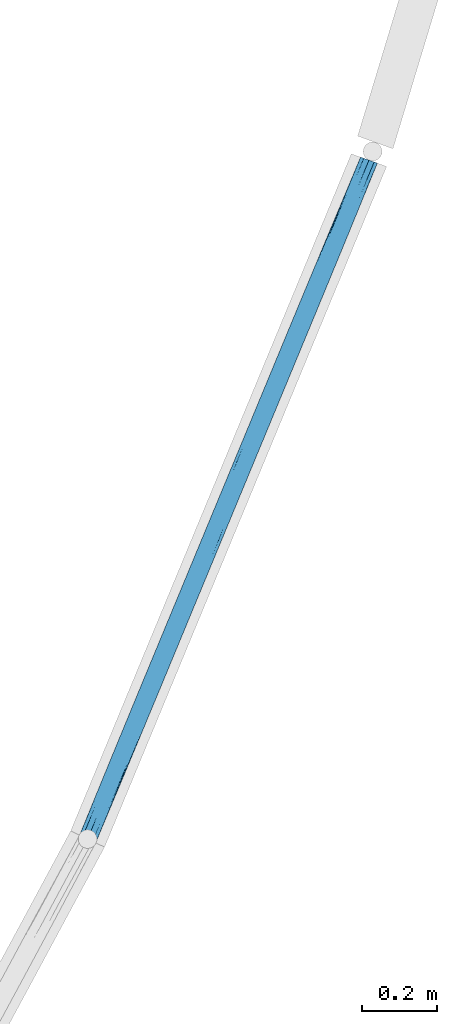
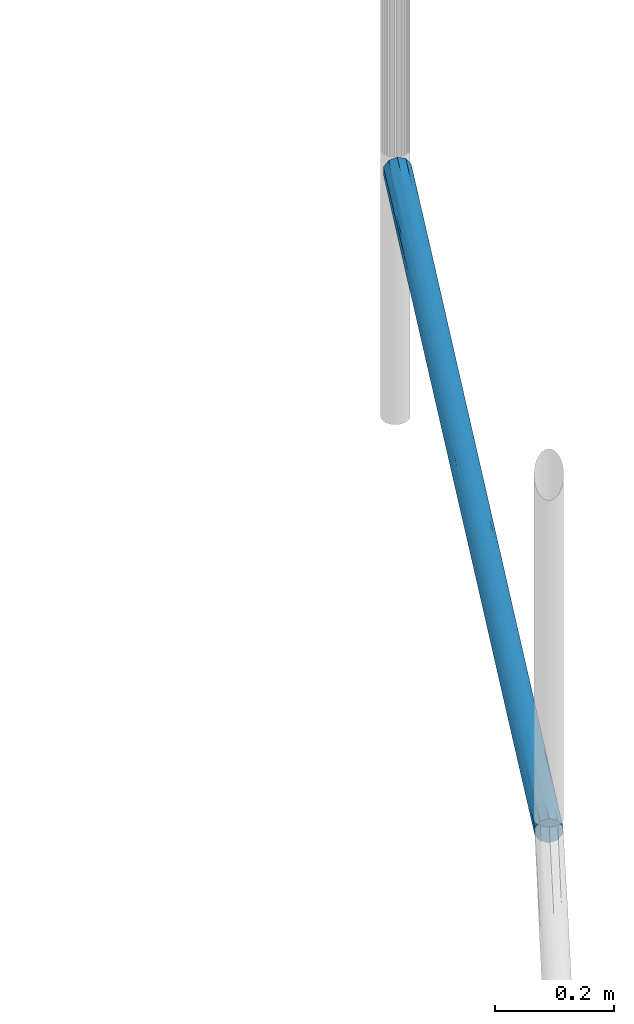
# One storey, part 29 of 33: 1 member, 1 element without a shape of its own.
"""IFC2X3 building model written with IfcOpenShell, lengths in metres."""

from ifc_helpers import new_model, entity, si_unit, converted_unit, derived_unit, direction, frame, origin, place, context, subcontext, project, spatial, faceted_brep, source, transform, mapped, material, type_object, type_shapes, element, aggregate, save


model = new_model("IFC2X3")

# Units and contexts
model_context = context("Model", 3, precision=1e-05, world=origin(), true_north=direction((6.123031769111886e-17, 1.0)))
body_context = subcontext(model_context, "Body", "Model", "MODEL_VIEW")
ifc_project = project(units=[si_unit("LENGTHUNIT", "METRE"), si_unit("AREAUNIT", "SQUARE_METRE"), si_unit("VOLUMEUNIT", "CUBIC_METRE"), converted_unit("PLANEANGLEUNIT", "DEGREE", entity("IfcRatioMeasure", 0.017453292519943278), si_unit("PLANEANGLEUNIT", "RADIAN"), dimensions=[0, 0, 0, 0, 0, 0, 0]), si_unit("MASSUNIT", "GRAM", prefix="KILO"), derived_unit("MASSDENSITYUNIT", [(si_unit("MASSUNIT", "GRAM", prefix="KILO"), 1), (si_unit("LENGTHUNIT", "METRE"), -3)]), derived_unit("IONCONCENTRATIONUNIT", [(si_unit("MASSUNIT", "GRAM", prefix="KILO"), 1), (si_unit("LENGTHUNIT", "METRE"), -3)]), derived_unit("MOMENTOFINERTIAUNIT", [(si_unit("LENGTHUNIT", "METRE"), 4)]), si_unit("TIMEUNIT", "SECOND"), si_unit("FREQUENCYUNIT", "HERTZ"), si_unit("THERMODYNAMICTEMPERATUREUNIT", "DEGREE_CELSIUS"), derived_unit("THERMALTRANSMITTANCEUNIT", [(si_unit("MASSUNIT", "GRAM", prefix="KILO"), 1), (si_unit("THERMODYNAMICTEMPERATUREUNIT", "KELVIN"), -1), (si_unit("TIMEUNIT", "SECOND"), -3)]), derived_unit("THERMALCONDUCTANCEUNIT", [(si_unit("MASSUNIT", "GRAM", prefix="KILO"), 1), (si_unit("THERMODYNAMICTEMPERATUREUNIT", "KELVIN"), -1), (si_unit("TIMEUNIT", "SECOND"), -3), (si_unit("LENGTHUNIT", "METRE"), 1)]), derived_unit("VOLUMETRICFLOWRATEUNIT", [(si_unit("LENGTHUNIT", "METRE"), 3), (si_unit("TIMEUNIT", "SECOND"), -1)]), derived_unit("MASSFLOWRATEUNIT", [(si_unit("MASSUNIT", "GRAM", prefix="KILO"), 1), (si_unit("TIMEUNIT", "SECOND"), -1)]), derived_unit("ROTATIONALFREQUENCYUNIT", [(si_unit("TIMEUNIT", "SECOND"), -1)]), si_unit("ELECTRICCURRENTUNIT", "AMPERE"), si_unit("ELECTRICVOLTAGEUNIT", "VOLT"), si_unit("POWERUNIT", "WATT"), si_unit("FORCEUNIT", "NEWTON", prefix="KILO"), si_unit("ILLUMINANCEUNIT", "LUX"), si_unit("LUMINOUSFLUXUNIT", "LUMEN"), si_unit("LUMINOUSINTENSITYUNIT", "CANDELA"), derived_unit("USERDEFINED", [(si_unit("MASSUNIT", "GRAM", prefix="KILO"), -1), (si_unit("LENGTHUNIT", "METRE"), -2), (si_unit("TIMEUNIT", "SECOND"), 3), (si_unit("LUMINOUSFLUXUNIT", "LUMEN"), 1)]), derived_unit("USERDEFINED", [(si_unit("MASSUNIT", "GRAM", prefix="KILO"), 1), (si_unit("TIMEUNIT", "SECOND"), -3), (si_unit("LENGTHUNIT", "METRE"), 3), (si_unit("ELECTRICCURRENTUNIT", "AMPERE"), -2)]), derived_unit("SOUNDPOWERUNIT", [(si_unit("MASSUNIT", "GRAM", prefix="KILO"), 1), (si_unit("TIMEUNIT", "SECOND"), -3), (si_unit("LENGTHUNIT", "METRE"), 2)]), derived_unit("SOUNDPRESSUREUNIT", [(si_unit("MASSUNIT", "GRAM", prefix="KILO"), 1), (si_unit("LENGTHUNIT", "METRE"), -1), (si_unit("TIMEUNIT", "SECOND"), -2)]), derived_unit("LINEARVELOCITYUNIT", [(si_unit("LENGTHUNIT", "METRE"), 1), (si_unit("TIMEUNIT", "SECOND"), -1)]), si_unit("PRESSUREUNIT", "PASCAL"), derived_unit("USERDEFINED", [(si_unit("MASSUNIT", "GRAM", prefix="KILO"), 1), (si_unit("LENGTHUNIT", "METRE"), -2), (si_unit("TIMEUNIT", "SECOND"), -2)]), derived_unit("LINEARFORCEUNIT", [(si_unit("MASSUNIT", "GRAM", prefix="KILO"), 1), (si_unit("TIMEUNIT", "SECOND"), -2)]), derived_unit("PLANARFORCEUNIT", [(si_unit("MASSUNIT", "GRAM", prefix="KILO"), 1), (si_unit("LENGTHUNIT", "METRE"), -1), (si_unit("TIMEUNIT", "SECOND"), -2)]), derived_unit("SPECIFICHEATCAPACITYUNIT", [(si_unit("THERMODYNAMICTEMPERATUREUNIT", "KELVIN"), -1), (si_unit("LENGTHUNIT", "METRE"), 2), (si_unit("TIMEUNIT", "SECOND"), -2)]), derived_unit("HEATINGVALUEUNIT", [(si_unit("LENGTHUNIT", "METRE"), 2), (si_unit("TIMEUNIT", "SECOND"), -2)]), derived_unit("VAPORPERMEABILITYUNIT", [(si_unit("LENGTHUNIT", "METRE"), -1), (si_unit("TIMEUNIT", "SECOND"), 1)]), derived_unit("DYNAMICVISCOSITYUNIT", [(si_unit("MASSUNIT", "GRAM", prefix="KILO"), 1), (si_unit("TIMEUNIT", "SECOND"), -1), (si_unit("LENGTHUNIT", "METRE"), -1)]), derived_unit("THERMALEXPANSIONCOEFFICIENTUNIT", [(si_unit("THERMODYNAMICTEMPERATUREUNIT", "KELVIN"), -1)]), derived_unit("MODULUSOFELASTICITYUNIT", [(si_unit("MASSUNIT", "GRAM", prefix="KILO"), 1), (si_unit("LENGTHUNIT", "METRE"), -1), (si_unit("TIMEUNIT", "SECOND"), -2)]), derived_unit("ISOTHERMALMOISTURECAPACITYUNIT", [(si_unit("LENGTHUNIT", "METRE"), 3), (si_unit("MASSUNIT", "GRAM", prefix="KILO"), -1)]), derived_unit("MOISTUREDIFFUSIVITYUNIT", [(si_unit("TIMEUNIT", "SECOND"), -1), (si_unit("LENGTHUNIT", "METRE"), 2)])], contexts=[model_context])

# Site, building, storey
site_placement = place(None, origin())
site = spatial("IfcSite", under=ifc_project, at=site_placement, Name="Superficie", CompositionType="ELEMENT")
building_placement = place(site_placement, frame((0.0, 0.0, 235.0), z_axis=(0.0, 0.0, 1.0), x_axis=(-0.7996477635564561, 0.6004693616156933, 0.0)))
building = spatial("IfcBuilding", under=site, at=building_placement, CompositionType="ELEMENT")
storey_placement = place(building_placement, origin())
storey = spatial("IfcBuildingStorey", under=building, at=storey_placement, Name="P0- Escola", CompositionType="ELEMENT", Elevation=0.0)

# Curtain wall, member
curtain_wall_type = type_object("IfcCurtainWallType", Name="Muro cortina:SER EXT- Tanca exterior", PredefinedType="NOTDEFINED")
curtain_wall_placement = place(storey_placement, origin())
curtain_wall = element("IfcCurtainWall", 1, at=curtain_wall_placement, inside=storey, type_object=curtain_wall_type, Name="Muro cortina:SER EXT- Tanca exterior", ObjectType="Muro cortina:SER EXT- Tanca exterior")
ifc_material = material(Name="Acero inoxidable")
member_type = type_object("IfcMemberType", Name="Montante circular:Perfil Tanca exterior", PredefinedType="MULLION", material=ifc_material)
shared_shape = source(origin(), body_context, "Body", "Brep", [
    faceted_brep([(0.01304961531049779, 0.04638394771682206, 1.7600430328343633), (0.015744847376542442, 0.046877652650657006, 1.9611114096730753), (0.01646179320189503, 0.04822584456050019, 1.6247290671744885), (0.02114997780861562, 0.04977145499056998, 1.5267361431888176), (0.022684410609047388, 0.05006389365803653, 1.7429856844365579), (0.030506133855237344, 0.0500638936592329, 0.2220178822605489), (0.0343206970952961, 0.049148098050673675, 0.0040073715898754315), (0.02659527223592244, 0.049148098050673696, 0.0040073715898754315), (0.018869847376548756, 0.04914809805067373, 0.0040073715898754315), (0.022684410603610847, 0.05006389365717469, 0.22201788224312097), (0.03330698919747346, 0.04945389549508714, 1.2858188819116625), (0.03764307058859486, 0.047798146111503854, 1.1914339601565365), (0.03251153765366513, 0.04966155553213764, 1.036734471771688), (0.05056784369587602, 0.03246504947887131, 1.204813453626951), (0.05159527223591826, 0.025371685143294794, 1.2638621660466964), (0.05159527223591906, 0.02537168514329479, 1.0164076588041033), (0.05159527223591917, 0.025371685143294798, 0.982503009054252), (0.008913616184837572, 0.04304536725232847, 0.3283163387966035), (0.012619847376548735, 0.04460720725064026, 0.0037770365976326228), (0.006369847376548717, 0.040066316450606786, 0.003546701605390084), (0.04870311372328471, 0.0370440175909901, 0.9825020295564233), (0.0508614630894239, 0.03138433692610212, 0.9069602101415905), (0.04930856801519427, 0.035817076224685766, 0.7320138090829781), (0.0039825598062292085, 0.03271900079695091, 1.9618298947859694), (0.002430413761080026, 0.03177946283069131, 1.6289727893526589), (0.0015952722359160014, 0.02537168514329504, 1.962202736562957), (0.030506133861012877, 0.050063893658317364, 1.742985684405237), (0.032162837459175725, 0.04974384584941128, 1.5229233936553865), (0.026595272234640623, 0.05037168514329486, 1.52497517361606), (0.03204055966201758, 0.04977145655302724, 0.43826720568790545), (0.03672874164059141, 0.04822584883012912, 0.34027466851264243), (0.0441988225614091, 0.043123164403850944, 0.9002456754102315), (0.04624862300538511, 0.040823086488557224, 0.6453587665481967), (0.04129853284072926, 0.04559083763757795, 0.618033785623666), (0.008730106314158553, 0.04285984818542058, 1.057742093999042), (0.004251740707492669, 0.03658625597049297, 1.2032044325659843), (0.0072501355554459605, 0.04120726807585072, 1.3368604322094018), (0.020679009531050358, 0.04966155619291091, 0.9282687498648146), (0.01988355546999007, 0.049453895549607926, 0.6791843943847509), (0.015547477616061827, 0.04779814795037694, 0.7735692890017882), (0.001595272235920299, 0.02537168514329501, 0.6333261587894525), (0.002493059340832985, 0.03201121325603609, 0.5969747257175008), (0.002265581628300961, 0.03112200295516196, 0.3581561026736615), (0.0022805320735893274, 0.031184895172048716, 1.10965943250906), (0.0015952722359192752, 0.02537168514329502, 0.9485923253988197), (0.0015952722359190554, 0.025371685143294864, 1.0164073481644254), (0.0015952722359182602, 0.025371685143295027, 1.263858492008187), (0.026595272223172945, 0.05037168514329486, 0.44002839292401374), (0.021027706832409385, 0.04974384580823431, 0.442080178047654), (0.018869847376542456, 0.04914809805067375, 1.960996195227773), (0.05117537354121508, 0.029934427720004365, 1.4384470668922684), (0.05159527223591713, 0.02537168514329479, 1.6130324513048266), (0.05159527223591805, 0.02537168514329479, 1.3316723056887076), (0.051595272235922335, 0.02537168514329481, 0.0028013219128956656), (0.049207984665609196, 0.032719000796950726, 0.003174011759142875), (0.05088117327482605, 0.031304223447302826, 0.3468997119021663), (0.04682069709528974, 0.04006631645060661, 1.9614570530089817), (0.04427692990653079, 0.043045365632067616, 1.6366872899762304), (0.04057069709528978, 0.04460720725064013, 1.9612266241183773), (0.01189200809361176, 0.04559083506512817, 1.3469697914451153), (0.015337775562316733, 0.04769361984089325, 1.2131764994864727), (0.03744569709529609, 0.046877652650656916, 0.0038922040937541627), (0.04073700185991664, 0.045987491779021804, 1.74487227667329), (0.04917286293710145, 0.036107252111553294, 0.4756295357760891), (0.03785276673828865, 0.04769362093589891, 0.7518271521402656), (0.0042736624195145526, 0.036629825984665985, 0.7027500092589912), (0.0022677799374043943, 0.031131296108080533, 0.8234829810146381), (0.0042491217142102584, 0.03658103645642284, 0.9485967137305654), (0.012453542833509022, 0.04598749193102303, 0.22013132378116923), (0.04576664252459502, 0.04141720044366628, 1.1721040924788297), (0.050824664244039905, 0.031530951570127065, 1.7001161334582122), (0.05097104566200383, 0.030923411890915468, 0.5925596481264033), (0.04427671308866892, 0.04304558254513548, 0.3107902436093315), (0.0408751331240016, 0.0458920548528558, 0.4109492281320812), (0.002241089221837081, 0.031017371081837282, 1.3641690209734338), (0.012315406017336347, 0.04589205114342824, 1.5540542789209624), (0.007365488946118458, 0.04134714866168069, 0.7833521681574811), (0.003801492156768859, 0.0356402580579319, 0.21729964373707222), (0.003982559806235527, 0.03271900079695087, 0.003174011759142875), (0.026595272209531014, 0.05037168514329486, 0.982501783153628), (0.03414151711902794, 0.04920557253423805, 0.8550799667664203), (0.026358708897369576, 0.05037056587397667, 0.7112650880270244), (0.03432069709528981, 0.04914809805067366, 1.960996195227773), (0.022703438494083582, 0.0500668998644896, 1.1267184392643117), (0.016165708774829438, 0.04809225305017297, 0.34958242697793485), (0.01222112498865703, 0.04582611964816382, 0.4196876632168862), (0.0058217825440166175, 0.03928075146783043, 0.32172719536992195), (0.007165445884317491, 0.041103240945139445, 0.543338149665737), (0.01587882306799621, 0.04795835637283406, 0.5610534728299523), (0.011261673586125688, 0.04511708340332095, 0.8781584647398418), (0.015883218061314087, 0.04796044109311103, 1.4140988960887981), (0.019722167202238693, 0.04940833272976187, 1.302285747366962), (0.02801435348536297, 0.05033137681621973, 1.2089755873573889), (0.02659527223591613, 0.0491480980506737, 1.960996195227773), (0.012619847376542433, 0.04460720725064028, 1.9612266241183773), (0.008913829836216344, 0.043045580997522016, 1.654213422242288), (0.006369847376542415, 0.04006631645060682, 1.9614570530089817), (0.004175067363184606, 0.036432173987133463, 1.457714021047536), (0.0047193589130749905, 0.03747310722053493, 1.723129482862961), (0.015197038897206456, 0.04762208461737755, 1.0000221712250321), (0.011891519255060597, 0.04559047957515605, 0.6530859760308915), (0.00404638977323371, 0.03616742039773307, 0.4578064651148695), (0.001595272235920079, 0.025371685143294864, 0.7011422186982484), (0.0015952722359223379, 0.025371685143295, 0.0028013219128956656), (0.0015952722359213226, 0.025371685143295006, 0.3180599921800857), (0.0015952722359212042, 0.025371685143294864, 0.3519717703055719), (0.00159527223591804, 0.025371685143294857, 1.3316724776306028), (0.001595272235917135, 0.025371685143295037, 1.613030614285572), (0.0015952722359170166, 0.025371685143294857, 1.6469376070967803), (0.03702483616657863, 0.04809225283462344, 1.6154210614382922), (0.040969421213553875, 0.04582611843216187, 1.5453159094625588), (0.048872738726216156, 0.036716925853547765, 1.7811316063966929), (0.04129902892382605, 0.045590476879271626, 1.3119175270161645), (0.04521517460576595, 0.04205398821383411, 1.4064927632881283), (0.0373117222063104, 0.04795835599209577, 1.4039499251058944), (0.04188847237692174, 0.04514838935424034, 1.0878113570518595), (0.033468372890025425, 0.04940833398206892, 0.662718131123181), (0.03730732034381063, 0.04796044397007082, 0.5509046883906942), (0.04682069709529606, 0.040066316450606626, 0.003546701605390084), (0.04057069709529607, 0.04460720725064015, 0.0037770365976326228), (0.0490185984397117, 0.036425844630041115, 0.2165123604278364), (0.04014091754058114, 0.046383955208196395, 0.20496049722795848), (0.03799351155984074, 0.0476220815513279, 0.9649814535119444), (0.04862243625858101, 0.03719556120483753, 1.1932560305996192), (0.05159527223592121, 0.025371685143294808, 0.35197160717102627), (0.05159527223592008, 0.025371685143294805, 0.7011428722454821), (0.049207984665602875, 0.0327190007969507, 1.9618298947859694), (0.04917286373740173, 0.03610725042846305, 1.489374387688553), (0.05159527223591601, 0.02537168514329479, 1.962202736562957), (0.05159527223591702, 0.02537168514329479, 1.6469369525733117), (0.020695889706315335, 0.001077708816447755, 1.0400409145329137), (0.019878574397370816, 0.001290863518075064, 1.2890371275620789), (0.015565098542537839, 0.002936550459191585, 1.1952897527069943), (0.03373287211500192, 0.0014122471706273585, 1.3437478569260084), (0.031297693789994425, 0.0008179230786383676, 1.1255190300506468), (0.03595823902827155, 0.002191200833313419, 1.1645356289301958), (0.05083534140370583, 0.019254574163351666, 0.8366096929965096), (0.0210318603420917, 0.000998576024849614, 1.5248023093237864), (0.02659527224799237, 0.00037168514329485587, 1.5260510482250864), (0.022684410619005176, 0.0006794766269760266, 1.7447301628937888), (0.003982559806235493, 0.018024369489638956, 0.0024286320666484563), (0.002433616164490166, 0.018951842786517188, 0.3343506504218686), (0.012460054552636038, 0.0047514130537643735, 1.7468488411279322), (0.012233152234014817, 0.004908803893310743, 1.547266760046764), (0.0161771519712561, 0.0026458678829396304, 1.6176301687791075), (0.013065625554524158, 0.0043491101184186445, 0.20363260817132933), (0.015744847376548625, 0.0038657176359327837, 0.0017104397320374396), (0.016493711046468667, 0.0025034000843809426, 0.3394374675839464), (0.0024915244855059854, 0.018737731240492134, 1.3684311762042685), (0.0022671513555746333, 0.019614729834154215, 1.6075019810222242), (0.030506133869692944, 0.0006794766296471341, 1.7447301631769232), (0.01886984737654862, 0.0015952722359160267, 0.0015952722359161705), (0.0022866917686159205, 0.019532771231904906, 0.8544867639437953), (0.02117545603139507, 0.0009662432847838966, 0.4357388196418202), (0.022684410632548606, 0.0006794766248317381, 0.22027438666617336), (0.045992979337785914, 0.00960054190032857, 1.2020230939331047), (0.04128077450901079, 0.005139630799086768, 1.3138225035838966), (0.040911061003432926, 0.004876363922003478, 1.0904664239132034), (0.03432069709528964, 0.0015952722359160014, 1.9634092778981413), (0.037940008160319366, 0.0030939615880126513, 1.6386158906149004), (0.04057069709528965, 0.00613616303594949, 1.963178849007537), (0.05098952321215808, 0.019901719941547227, 0.5820977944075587), (0.048708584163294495, 0.013709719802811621, 0.7612032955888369), (0.04910207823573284, 0.014488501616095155, 1.2618630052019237), (0.04892992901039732, 0.014139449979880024, 1.0164073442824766), (0.05091981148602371, 0.019599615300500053, 1.1240607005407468), (0.008753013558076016, 0.007860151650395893, 0.9077645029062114), (0.004269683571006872, 0.014121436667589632, 0.761482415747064), (0.007263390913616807, 0.009519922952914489, 0.626585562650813), (0.0442694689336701, 0.00769054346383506, 1.6804172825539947), (0.0412812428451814, 0.005139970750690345, 0.6181275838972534), (0.03697824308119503, 0.002629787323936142, 0.9659680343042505), (0.033572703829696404, 0.0013651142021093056, 0.6435309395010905), (0.03711590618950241, 0.0026931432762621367, 0.3295550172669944), (0.04403966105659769, 0.007463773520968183, 0.3031414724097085), (0.011909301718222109, 0.00513997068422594, 0.6181275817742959), (0.015354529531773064, 0.0030413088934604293, 0.7525106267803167), (0.0022707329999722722, 0.01959961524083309, 1.1411140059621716), (0.004260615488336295, 0.014139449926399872, 1.016407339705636), (0.004278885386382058, 0.014103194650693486, 1.2625650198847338), (0.04920798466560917, 0.01802436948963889, 0.0024286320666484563), (0.05070002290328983, 0.01874137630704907, 0.3070635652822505), (0.0482589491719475, 0.012894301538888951, 0.24694093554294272), (0.05088955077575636, 0.019473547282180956, 1.627192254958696), (0.04917121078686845, 0.014632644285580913, 1.7547491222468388), (0.04913943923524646, 0.014566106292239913, 1.5078136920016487), (0.012619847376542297, 0.0061361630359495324, 1.963178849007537), (0.008921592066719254, 0.0076900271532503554, 1.6383854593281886), (0.04508053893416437, 0.008540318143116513, 1.4402019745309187), (0.044003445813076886, 0.0074285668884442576, 0.9387098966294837), (0.0022402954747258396, 0.0197294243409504, 0.5996957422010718), (0.012334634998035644, 0.004837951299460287, 0.410479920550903), (0.04901105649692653, 0.014302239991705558, 0.5066913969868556), (0.04586914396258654, 0.009449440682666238, 0.6098407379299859), (0.007380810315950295, 0.009377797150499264, 1.1824958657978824), (0.0038054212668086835, 0.015094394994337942, 1.7484755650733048), (0.003982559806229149, 0.01802436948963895, 1.962575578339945), (0.050892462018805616, 0.019485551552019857, 1.3817189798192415), (0.04682069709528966, 0.010677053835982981, 1.9629484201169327), (0.01886984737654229, 0.0015952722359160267, 1.9634092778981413), (0.037861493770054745, 0.0030541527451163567, 1.4345279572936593), (0.041622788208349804, 0.005392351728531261, 1.526486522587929), (0.022657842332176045, 0.0006836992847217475, 0.8406641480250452), (0.02659527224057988, 0.00037168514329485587, 0.9825022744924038), (0.005827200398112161, 0.01145453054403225, 1.6439950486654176), (0.007188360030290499, 0.009611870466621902, 1.4226856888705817), (0.006369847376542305, 0.010677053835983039, 1.9629484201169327), (0.015879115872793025, 0.002784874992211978, 1.4066614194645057), (0.02659527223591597, 0.001595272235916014, 1.9634092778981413), (0.02635863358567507, 0.00037280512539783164, 1.2542766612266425), (0.011281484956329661, 0.005610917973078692, 1.088227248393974), (0.019745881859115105, 0.0013282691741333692, 0.6632418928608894), (0.01590472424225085, 0.0027727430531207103, 0.5517787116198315), (0.02692029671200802, 0.0003737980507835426, 0.7107278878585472), (0.034320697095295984, 0.0015952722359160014, 0.0015952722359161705), (0.030506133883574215, 0.0006794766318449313, 0.22027438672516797), (0.026595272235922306, 0.001595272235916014, 0.0015952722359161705), (0.012619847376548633, 0.006136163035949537, 0.0018256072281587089), (0.008921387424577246, 0.0076902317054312, 0.31009176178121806), (0.006369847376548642, 0.010677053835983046, 0.002055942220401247), (0.0041794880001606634, 0.014302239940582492, 0.5066913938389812), (0.004732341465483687, 0.013246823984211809, 0.24119479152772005), (0.015226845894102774, 0.003106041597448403, 0.9659695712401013), (0.011909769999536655, 0.005139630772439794, 1.3138225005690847), (0.004051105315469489, 0.014566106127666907, 1.5078136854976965), (0.03172124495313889, 0.0009028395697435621, 1.5383813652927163), (0.03183400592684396, 0.0009267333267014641, 0.891329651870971), (0.03193798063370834, 0.0009492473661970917, 0.43334447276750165), (0.026595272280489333, 0.00037168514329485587, 0.4389535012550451), (0.04057069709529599, 0.00613616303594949, 0.0018256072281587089), (0.04682069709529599, 0.010677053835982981, 0.002055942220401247), (0.04920798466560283, 0.01802436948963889, 1.9625755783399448)], [[[0, 1, 2]], [[3, 2, 4]], [[5, 6, 7, 8, 9]], [[10, 11, 12]], [[13, 14, 15, 16]], [[17, 18, 19]], [[20, 21, 22]], [[23, 24, 25]], [[26, 27, 28]], [[29, 30, 5]], [[31, 32, 33]], [[34, 35, 36]], [[37, 38, 39]], [[40, 41, 42]], [[43, 44, 45, 46]], [[47, 9, 48]], [[49, 2, 1]], [[50, 51, 52, 14]], [[53, 54, 55]], [[56, 57, 58]], [[59, 60, 34]], [[61, 6, 30]], [[58, 57, 62]], [[32, 22, 63]], [[31, 33, 64]], [[65, 41, 66]], [[66, 43, 67]], [[18, 17, 68]], [[69, 20, 31]], [[50, 70, 51]], [[55, 63, 71]], [[72, 73, 33]], [[46, 74, 43]], [[75, 59, 36]], [[76, 67, 34]], [[77, 78, 42]], [[68, 8, 18]], [[79, 80, 81]], [[62, 82, 58]], [[37, 83, 79]], [[84, 68, 85]], [[86, 19, 77]], [[17, 86, 87]], [[84, 85, 88]], [[48, 9, 84]], [[38, 88, 39]], [[47, 48, 81]], [[76, 34, 89]], [[59, 90, 60]], [[91, 60, 90]], [[12, 92, 10]], [[75, 0, 2]], [[82, 26, 4, 49, 93]], [[94, 95, 96]], [[95, 75, 36]], [[95, 97, 98]], [[89, 34, 99]], [[35, 67, 43]], [[100, 85, 87]], [[65, 67, 76]], [[87, 65, 76]], [[66, 67, 65]], [[41, 65, 101]], [[44, 43, 66]], [[66, 40, 102, 44]], [[74, 97, 35]], [[43, 74, 35]], [[42, 103, 104, 105, 40]], [[40, 66, 41]], [[41, 101, 42]], [[77, 42, 101]], [[103, 42, 78]], [[86, 77, 101]], [[19, 78, 77]], [[24, 97, 74]], [[98, 97, 24]], [[36, 35, 97]], [[34, 67, 35]], [[95, 36, 97]], [[34, 36, 59]], [[74, 46, 106, 107]], [[24, 74, 107]], [[24, 107, 108, 25]], [[98, 23, 96]], [[23, 98, 24]], [[95, 98, 96]], [[101, 65, 87]], [[19, 86, 17]], [[101, 87, 86]], [[100, 87, 76]], [[109, 62, 110]], [[111, 57, 56]], [[112, 113, 69]], [[109, 110, 114]], [[27, 26, 109]], [[10, 114, 11]], [[92, 79, 83]], [[69, 31, 115]], [[64, 116, 80]], [[116, 64, 117]], [[29, 81, 116]], [[72, 118, 119]], [[63, 120, 72]], [[121, 30, 73]], [[72, 33, 32]], [[115, 31, 122]], [[20, 22, 32]], [[112, 110, 113]], [[20, 123, 13]], [[20, 32, 31]], [[72, 32, 63]], [[16, 21, 13]], [[63, 22, 71]], [[21, 20, 13]], [[124, 55, 71]], [[125, 21, 16]], [[123, 20, 69]], [[126, 70, 111]], [[71, 21, 125]], [[21, 71, 22]], [[63, 55, 120]], [[124, 71, 125]], [[53, 55, 124]], [[120, 55, 54]], [[54, 118, 120]], [[72, 120, 118]], [[13, 127, 50]], [[13, 50, 14]], [[70, 128, 129, 51]], [[70, 126, 128]], [[50, 127, 70]], [[126, 111, 56]], [[70, 127, 111]], [[57, 111, 127]], [[57, 127, 113]], [[123, 113, 127]], [[84, 9, 8]], [[5, 9, 47]], [[88, 48, 84]], [[81, 48, 38]], [[29, 5, 47]], [[121, 61, 30]], [[81, 29, 47]], [[117, 29, 116]], [[109, 26, 82]], [[4, 26, 28]], [[114, 27, 109]], [[92, 27, 10]], [[4, 28, 3]], [[28, 91, 3]], [[90, 3, 91]], [[85, 68, 17]], [[8, 68, 84]], [[87, 85, 17]], [[88, 85, 100]], [[39, 88, 100]], [[48, 88, 38]], [[89, 39, 100]], [[37, 39, 99]], [[37, 81, 38]], [[79, 12, 80]], [[99, 60, 83]], [[81, 37, 79]], [[99, 83, 37]], [[92, 91, 28]], [[91, 92, 83]], [[27, 92, 28]], [[83, 60, 91]], [[34, 60, 99]], [[75, 90, 59]], [[3, 90, 2]], [[2, 49, 4]], [[0, 95, 94]], [[90, 75, 2]], [[95, 0, 75]], [[1, 0, 94]], [[39, 89, 99]], [[76, 89, 100]], [[110, 62, 57]], [[82, 62, 109]], [[113, 110, 57]], [[114, 110, 112]], [[11, 114, 112]], [[27, 114, 10]], [[115, 11, 112]], [[12, 11, 122]], [[122, 64, 80]], [[92, 12, 79]], [[31, 64, 122]], [[117, 64, 33]], [[73, 117, 33]], [[29, 117, 30]], [[81, 80, 116]], [[122, 80, 12]], [[30, 6, 5]], [[121, 72, 119]], [[117, 73, 30]], [[72, 121, 73]], [[61, 121, 119]], [[11, 115, 122]], [[69, 115, 112]], [[113, 123, 69]], [[127, 13, 123]], [[130, 131, 132]], [[133, 134, 135]], [[136, 125, 16, 15]], [[137, 138, 139]], [[103, 140, 141]], [[142, 143, 144]], [[145, 146, 147]], [[106, 148, 149]], [[138, 150, 139]], [[151, 147, 146]], [[152, 45, 44, 102]], [[153, 147, 154]], [[155, 156, 157]], [[158, 159, 160]], [[161, 136, 162]], [[163, 164, 165]], [[166, 167, 168]], [[160, 159, 169]], [[170, 171, 172]], [[173, 174, 170]], [[175, 176, 166]], [[177, 152, 178]], [[179, 148, 177]], [[180, 181, 182]], [[183, 184, 185]], [[186, 187, 142]], [[163, 185, 188]], [[157, 171, 189]], [[102, 190, 152]], [[191, 175, 168]], [[192, 193, 174]], [[124, 161, 181]], [[194, 178, 166]], [[195, 196, 149]], [[197, 183, 185]], [[160, 169, 198]], [[142, 199, 186]], [[200, 201, 159]], [[172, 173, 170]], [[130, 202, 203]], [[204, 205, 187]], [[204, 206, 195]], [[186, 206, 187]], [[144, 143, 207]], [[208, 199, 139, 150, 158]], [[131, 207, 132]], [[138, 137, 209]], [[194, 166, 210]], [[176, 211, 202]], [[211, 176, 212]], [[153, 213, 211]], [[191, 145, 147]], [[214, 215, 154, 216]], [[217, 218, 219]], [[218, 191, 168]], [[218, 220, 221]], [[210, 166, 222]], [[167, 178, 152]], [[223, 143, 205]], [[179, 178, 194]], [[205, 179, 194]], [[177, 178, 179]], [[148, 179, 224]], [[45, 152, 177]], [[177, 106, 46, 45]], [[190, 220, 167]], [[152, 190, 167]], [[149, 25, 108, 107, 106]], [[106, 177, 148]], [[148, 224, 149]], [[195, 149, 224]], [[25, 149, 196]], [[204, 195, 224]], [[206, 196, 195]], [[141, 220, 190]], [[221, 220, 141]], [[168, 167, 220]], [[166, 178, 167]], [[218, 168, 220]], [[166, 168, 175]], [[190, 102, 40, 105]], [[141, 190, 105]], [[141, 105, 104, 103]], [[221, 140, 219]], [[140, 221, 141]], [[218, 221, 219]], [[224, 179, 205]], [[206, 204, 187]], [[224, 205, 204]], [[223, 205, 194]], [[188, 156, 155]], [[199, 144, 139]], [[150, 225, 159]], [[169, 201, 188]], [[184, 169, 185]], [[133, 225, 209]], [[171, 170, 189]], [[209, 134, 133]], [[213, 172, 226]], [[226, 171, 134]], [[172, 227, 173]], [[215, 227, 228]], [[173, 229, 174]], [[162, 193, 192]], [[181, 161, 192]], [[229, 173, 214]], [[229, 230, 174]], [[189, 164, 155]], [[163, 155, 164]], [[188, 185, 169]], [[15, 165, 136]], [[197, 185, 163]], [[165, 164, 136]], [[165, 52, 197]], [[165, 15, 14, 52]], [[162, 136, 164]], [[192, 161, 162]], [[165, 197, 163]], [[183, 197, 129]], [[183, 128, 231]], [[197, 52, 51, 129]], [[128, 183, 129]], [[184, 183, 231]], [[231, 198, 184]], [[169, 184, 198]], [[164, 189, 162]], [[193, 189, 170]], [[189, 193, 162]], [[174, 193, 170]], [[182, 174, 230]], [[125, 136, 161]], [[124, 181, 53]], [[124, 125, 161]], [[182, 181, 192]], [[53, 181, 180]], [[174, 182, 192]], [[180, 182, 230]], [[188, 155, 163]], [[201, 169, 159]], [[159, 225, 200]], [[156, 188, 201]], [[135, 200, 133]], [[156, 201, 200]], [[137, 139, 144]], [[207, 137, 144]], [[209, 137, 131]], [[225, 150, 138]], [[159, 158, 150]], [[154, 151, 216]], [[173, 215, 214]], [[154, 215, 228]], [[154, 228, 153]], [[213, 153, 228]], [[212, 153, 211]], [[173, 227, 215]], [[213, 227, 172]], [[143, 142, 187]], [[199, 142, 144]], [[205, 143, 187]], [[207, 143, 223]], [[132, 207, 223]], [[137, 207, 131]], [[210, 132, 223]], [[130, 132, 222]], [[130, 209, 131]], [[209, 203, 134]], [[226, 134, 203]], [[135, 134, 171]], [[213, 226, 203]], [[172, 171, 226]], [[213, 203, 202]], [[213, 228, 227]], [[157, 135, 171]], [[200, 135, 156]], [[222, 176, 202]], [[209, 130, 203]], [[222, 202, 130]], [[213, 202, 211]], [[166, 176, 222]], [[212, 176, 175]], [[191, 212, 175]], [[153, 212, 147]], [[147, 151, 154]], [[145, 218, 217]], [[212, 191, 147]], [[218, 145, 191]], [[146, 145, 217]], [[132, 210, 222]], [[194, 210, 223]], [[155, 157, 189]], [[135, 157, 156]], [[209, 225, 138]], [[225, 133, 200]], [[128, 126, 56, 58, 82, 93, 49, 1, 94, 96, 23, 25, 196, 206, 186, 199, 208, 158, 160, 198, 231]], [[230, 229, 214, 216, 151, 146, 217, 219, 140, 103, 78, 19, 18, 8, 7, 6, 61, 119, 118, 54, 53, 180]]]),
])
type_shapes(member_type, [shared_shape])
member_placement = place(curtain_wall_placement, frame((-11.68604757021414, -50.845241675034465, -4.623404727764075), z_axis=(0.24857206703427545, -0.968613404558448, 0.0), x_axis=(0.0, 0.0, -1.0)))
member = element("IfcMember", 2, at=member_placement, type_object=member_type, material=ifc_material, Name="Montante circular:Perfil Tanca exterior", ObjectType="Montante circular:Perfil Tanca exterior", context=body_context, shape_type="MappedRepresentation", body=[
    mapped(shared_shape, transform((0.0, 0.0, 0.0), scale=1.0)),
])
aggregate(curtain_wall, [member])

save(model, "model.ifc")
